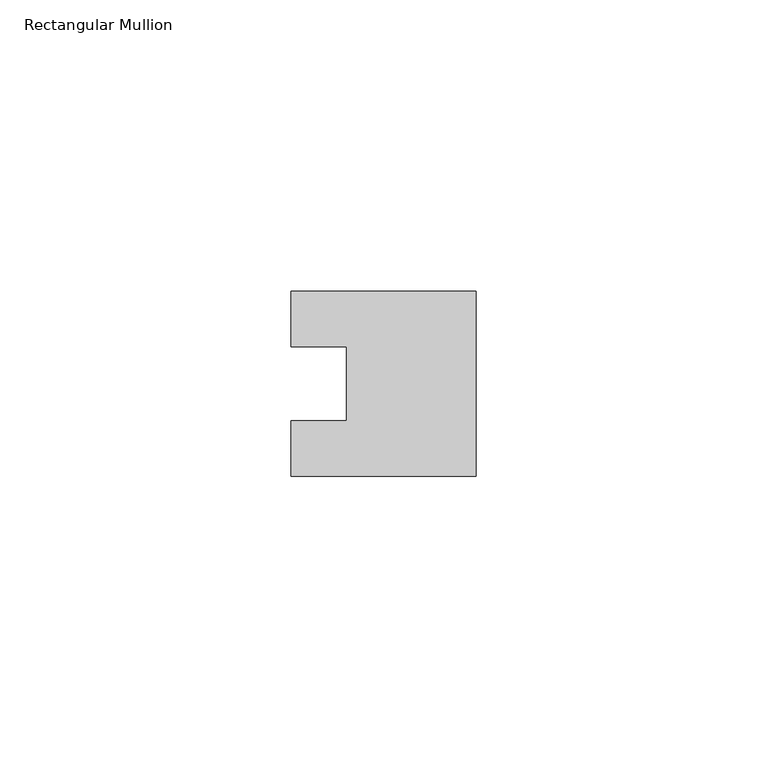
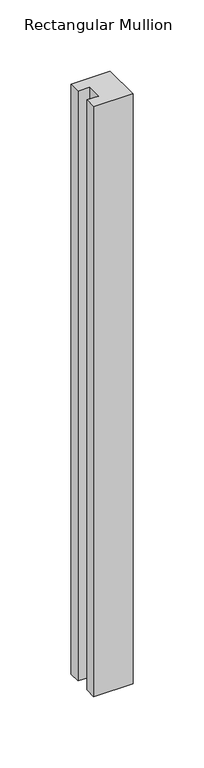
"""IFC4 building model written with IfcOpenShell, lengths in millimetres: member geometry, Rectangular Mullion : Melius SG Base Rail."""

from ifc_helpers import new_model, si_unit, frame, origin, place, context, project, spatial, polyline, outline, extrude, source, transform, mapped, element, save


def rectangular_mullion_f0d09e31(model_context):
    return source(origin(), model_context, "Body", "SweptSolid", [
        extrude(outline(polyline([(-31.75, 15.875), (0.0, 15.875), (0.0, -15.875), (-31.75, -15.875), (-31.75, -6.35), (-22.225, -6.35), (-22.225, 6.35), (-31.75, 6.35), (-31.75, 15.875)])), frame((0.0, 0.0, -505.2255826), z_axis=(0.0, 0.0, 1.0), x_axis=(1.0, 0.0, 0.0)), (0.0, 0.0, 1.0), 505.2255826),
    ])


if __name__ == "__main__":
    model = new_model("IFC4")
    model_context = context("Model", 3, world=origin())
    ifc_project = project(units=[si_unit("LENGTHUNIT", "METRE", prefix="MILLI")], contexts=[model_context])
    site = spatial("IfcSite", under=ifc_project)
    building = spatial("IfcBuilding", under=site)
    placement = place(None, origin())
    rectangular_mullion_shape = rectangular_mullion_f0d09e31(model_context)
    element("IfcMember", 1, ObjectType="Rectangular Mullion : Melius SG Base Rail", at=placement, inside=building, context=model_context, shape_type="MappedRepresentation", body=[
        mapped(rectangular_mullion_shape, transform((0.0, 0.0, 0.0), x_axis=(1.0, 0.0, 0.0), y_axis=(0.0, 1.0, 0.0), z_axis=(0.0, 0.0, 1.0))),
    ])
    save(model, "model.ifc")
